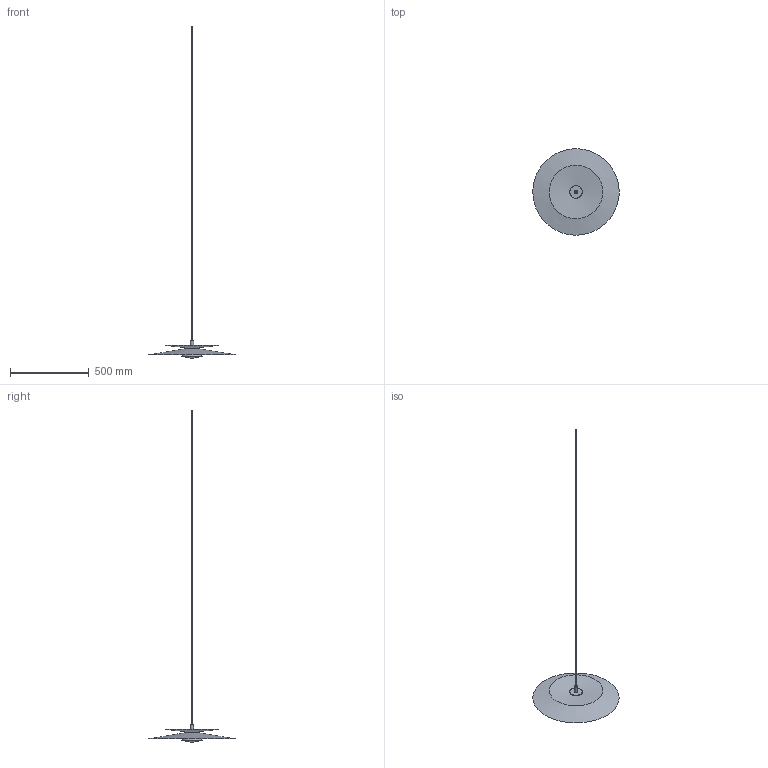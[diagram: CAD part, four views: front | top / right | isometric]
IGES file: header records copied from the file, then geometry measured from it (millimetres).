
Global section: file name: /Users/064_p/Desktop/3d data_02/ILKW_LASER55_Pendant_3D.igs; native system: Rhinoceros ( Jul  7 2025 ); preprocessor: Trout Lake IGES 012 Jul  7 2025; date: 260828.071435; units: millimetre
Bounding box: 548.72 x 548.32 x 2108.91 mm (x, y, z)
Surface area: 408698.5 mm2 (no closed solid volume)
Topology: 0 solids, 0 shells, 22 faces, 84 edges, 75 vertices
Faces by surface type: bspline 22
